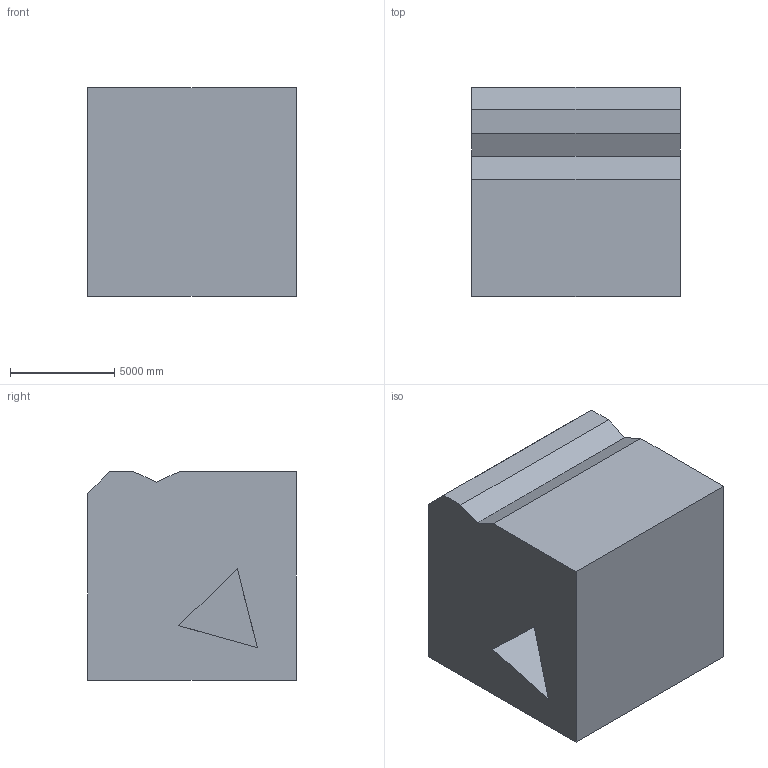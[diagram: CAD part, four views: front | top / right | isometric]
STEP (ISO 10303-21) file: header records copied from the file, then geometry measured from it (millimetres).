
FILE_DESCRIPTION (( 'STEP AP203' ), '1' );
FILE_NAME ('1338.STEP', '2022-08-18T13:51:21', ( 'user' ), ( '' ), 'SwSTEP 2.0', 'SolidWorks 2021', '' );
FILE_SCHEMA (( 'CONFIG_CONTROL_DESIGN' ));
Length unit declared in the file: centimetre
Products named in the file (1): 1338
Bounding box: 10000 x 10000 x 10000 mm (x, y, z)
Volume: 950798619967.6 mm3; surface area: 669450562.5 mm2
Topology: 1 solids, 1 shells, 20 faces, 54 edges, 36 vertices
Faces by surface type: plane 20
Entity records: 699 total; most frequent: CARTESIAN_POINT 111, ORIENTED_EDGE 108, DIRECTION 96, VECTOR 54, EDGE_CURVE 54, LINE 54, VERTEX_POINT 36, EDGE_LOOP 22
